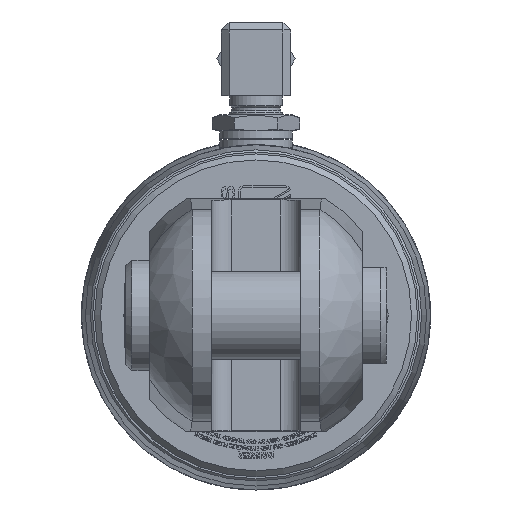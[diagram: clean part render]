
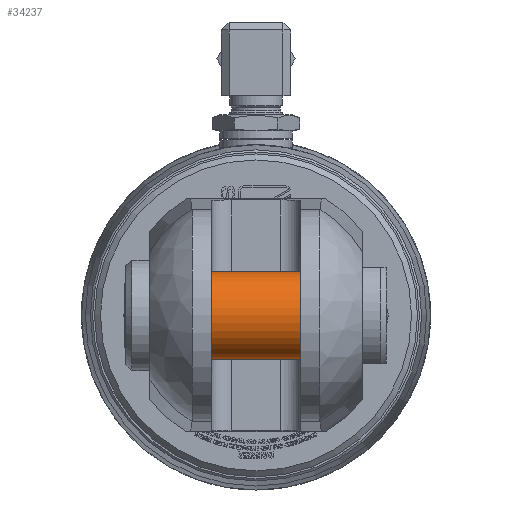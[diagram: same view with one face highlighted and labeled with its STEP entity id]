
A CAD part, left-side view. The second image highlights one B-rep face of the part: STEP entity #34237.
In plain terms, the highlighted cylindrical face has radius 11.115 mm (diameter 22.23 mm), a full revolution.
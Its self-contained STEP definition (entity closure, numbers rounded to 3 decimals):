
#4941=LINE('',#62750,#7895);
#7895=VECTOR('',#41845,11.115);
#8062=CYLINDRICAL_SURFACE('',#35849,11.115);
#9929=FACE_OUTER_BOUND('',#11854,.T.);
#11854=EDGE_LOOP('',(#29365,#29366,#29367,#29368,#29369,#29370));
#12243=CIRCLE('',#35696,11.115);
#12244=CIRCLE('',#35697,11.115);
#12252=CIRCLE('',#35720,11.115);
#12253=CIRCLE('',#35721,11.115);
#15271=VERTEX_POINT('',#62169);
#15272=VERTEX_POINT('',#62170);
#15286=VERTEX_POINT('',#62262);
#15287=VERTEX_POINT('',#62263);
#19888=EDGE_CURVE('',#15271,#15272,#12243,.T.);
#19889=EDGE_CURVE('',#15272,#15271,#12244,.T.);
#19914=EDGE_CURVE('',#15286,#15287,#12252,.T.);
#19915=EDGE_CURVE('',#15287,#15286,#12253,.T.);
#20108=EDGE_CURVE('',#15287,#15272,#4941,.T.);
#29365=ORIENTED_EDGE('',*,*,#19914,.T.);
#29366=ORIENTED_EDGE('',*,*,#20108,.T.);
#29367=ORIENTED_EDGE('',*,*,#19889,.T.);
#29368=ORIENTED_EDGE('',*,*,#19888,.T.);
#29369=ORIENTED_EDGE('',*,*,#20108,.F.);
#29370=ORIENTED_EDGE('',*,*,#19915,.T.);
#34237=ADVANCED_FACE('',(#9929),#8062,.T.);
#35696=AXIS2_PLACEMENT_3D('',#62171,#41451,#41452);
#35697=AXIS2_PLACEMENT_3D('',#62172,#41453,#41454);
#35720=AXIS2_PLACEMENT_3D('',#62264,#41508,#41509);
#35721=AXIS2_PLACEMENT_3D('',#62265,#41510,#41511);
#35849=AXIS2_PLACEMENT_3D('',#62749,#41843,#41844);
#41451=DIRECTION('center_axis',(0.,-1.,0.));
#41452=DIRECTION('ref_axis',(0.,0.,
1.));
#41453=DIRECTION('center_axis',(0.,-1.,0.));
#41454=DIRECTION('ref_axis',(0.,0.,
1.));
#41508=DIRECTION('center_axis',(0.,1.,0.));
#41509=DIRECTION('ref_axis',(0.,0.,
1.));
#41510=DIRECTION('center_axis',(0.,1.,0.));
#41511=DIRECTION('ref_axis',(0.,0.,
1.));
#41843=DIRECTION('center_axis',(0.,-1.,0.));
#41844=DIRECTION('ref_axis',(0.,0.,
1.));
#41845=DIRECTION('',(0.,1.,0.));
#62169=CARTESIAN_POINT('',(-836.563,11.215,0.));
#62170=CARTESIAN_POINT('',(-847.678,11.215,-11.115));
#62171=CARTESIAN_POINT('Origin',(-847.678,11.215,0.));
#62172=CARTESIAN_POINT('Origin',(-847.678,11.215,0.));
#62262=CARTESIAN_POINT('',(-836.563,-11.215,0.));
#62263=CARTESIAN_POINT('',(-847.678,-11.215,-11.115));
#62264=CARTESIAN_POINT('Origin',(-847.678,-11.215,0.));
#62265=CARTESIAN_POINT('Origin',(-847.678,-11.215,0.));
#62749=CARTESIAN_POINT('Origin',(-847.678,0.,0.));
#62750=CARTESIAN_POINT('',(-847.678,0.,-11.115));
